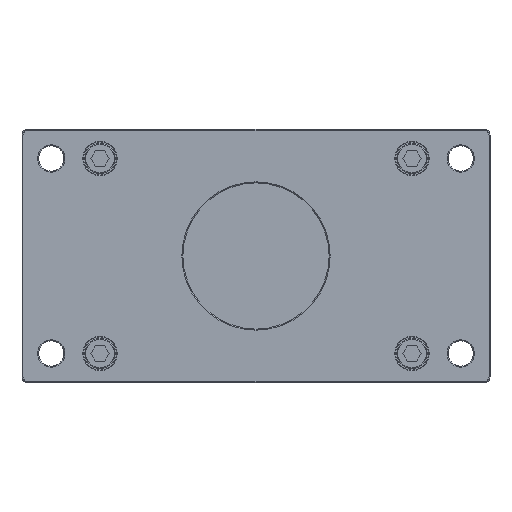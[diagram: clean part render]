
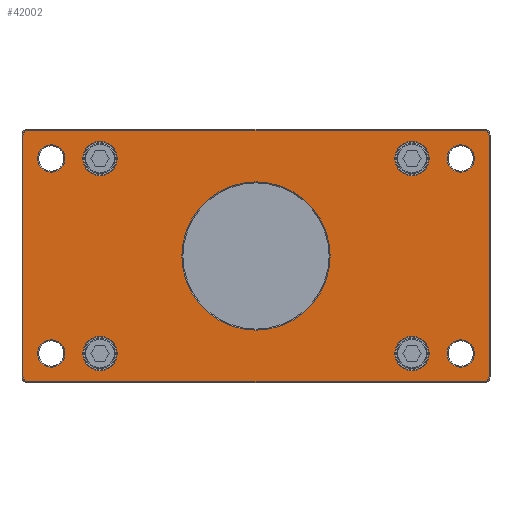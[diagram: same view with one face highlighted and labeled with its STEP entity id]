
A CAD part, front view. The second image highlights one B-rep face of the part: STEP entity #42002.
In plain terms, the highlighted planar face has unit normal (0, -1, 0) as drawn and (0, 1, 0) by its records, which use the part's own axes.
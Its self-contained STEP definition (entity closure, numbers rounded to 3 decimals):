
#40454=CARTESIAN_POINT('',(0.,9.,0.));
#40455=DIRECTION('',(0.,-1.,0.));
#40456=DIRECTION('',(1.,0.,0.));
#40457=AXIS2_PLACEMENT_3D('',#40454,#40455,#40456);
#40459=CARTESIAN_POINT('',(0.,9.,0.));
#40460=DIRECTION('',(0.,-1.,0.));
#40461=DIRECTION('',(-1.,0.,0.));
#40462=AXIS2_PLACEMENT_3D('',#40459,#40460,#40461);
#40464=CARTESIAN_POINT('',(-105.,9.,-50.));
#40465=DIRECTION('',(0.,-1.,0.));
#40466=DIRECTION('',(-1.,0.,0.));
#40467=AXIS2_PLACEMENT_3D('',#40464,#40465,#40466);
#40469=CARTESIAN_POINT('',(-105.,9.,-50.));
#40470=DIRECTION('',(0.,-1.,0.));
#40471=DIRECTION('',(1.,0.,0.));
#40472=AXIS2_PLACEMENT_3D('',#40469,#40470,#40471);
#40474=CARTESIAN_POINT('',(105.,9.,-50.));
#40475=DIRECTION('',(0.,-1.,0.));
#40476=DIRECTION('',(-1.,0.,0.));
#40477=AXIS2_PLACEMENT_3D('',#40474,#40475,#40476);
#40479=CARTESIAN_POINT('',(105.,9.,-50.));
#40480=DIRECTION('',(0.,-1.,0.));
#40481=DIRECTION('',(1.,0.,0.));
#40482=AXIS2_PLACEMENT_3D('',#40479,#40480,#40481);
#40484=CARTESIAN_POINT('',(105.,9.,50.));
#40485=DIRECTION('',(0.,-1.,0.));
#40486=DIRECTION('',(1.,0.,0.));
#40487=AXIS2_PLACEMENT_3D('',#40484,#40485,#40486);
#40489=CARTESIAN_POINT('',(105.,9.,50.));
#40490=DIRECTION('',(0.,-1.,0.));
#40491=DIRECTION('',(-1.,0.,0.));
#40492=AXIS2_PLACEMENT_3D('',#40489,#40490,#40491);
#40494=CARTESIAN_POINT('',(-105.,9.,50.));
#40495=DIRECTION('',(0.,-1.,0.));
#40496=DIRECTION('',(-1.,0.,0.));
#40497=AXIS2_PLACEMENT_3D('',#40494,#40495,#40496);
#40499=CARTESIAN_POINT('',(-105.,9.,50.));
#40500=DIRECTION('',(0.,-1.,0.));
#40501=DIRECTION('',(1.,0.,0.));
#40502=AXIS2_PLACEMENT_3D('',#40499,#40500,#40501);
#40504=CARTESIAN_POINT('',(-117.,9.,-62.));
#40505=DIRECTION('',(0.,1.,0.));
#40506=DIRECTION('',(0.,0.,-1.));
#40507=AXIS2_PLACEMENT_3D('',#40504,#40505,#40506);
#40509=DIRECTION('',(-1.,0.,0.));
#40510=VECTOR('',#40509,234.);
#40511=CARTESIAN_POINT('',(117.,9.,
-64.5));
#40512=LINE('',#40511,#40510);
#40513=CARTESIAN_POINT('',(117.,9.,-62.));
#40514=DIRECTION('',(0.,1.,0.));
#40515=DIRECTION('',(1.,0.,0.));
#40516=AXIS2_PLACEMENT_3D('',#40513,#40514,#40515);
#40518=DIRECTION('',(0.,0.,-1.));
#40519=VECTOR('',#40518,124.);
#40520=CARTESIAN_POINT('',(119.5,9.,62.));
#40521=LINE('',#40520,#40519);
#40522=CARTESIAN_POINT('',(117.,9.,62.));
#40523=DIRECTION('',(0.,1.,0.));
#40524=DIRECTION('',(0.,0.,1.));
#40525=AXIS2_PLACEMENT_3D('',#40522,#40523,#40524);
#40527=DIRECTION('',(1.,0.,0.));
#40528=VECTOR('',#40527,234.);
#40529=CARTESIAN_POINT('',(-117.,9.,
64.5));
#40530=LINE('',#40529,#40528);
#40531=CARTESIAN_POINT('',(-117.,9.,62.));
#40532=DIRECTION('',(0.,1.,0.));
#40533=DIRECTION('',(-1.,0.,0.));
#40534=AXIS2_PLACEMENT_3D('',#40531,#40532,#40533);
#40536=DIRECTION('',(0.,0.,1.));
#40537=VECTOR('',#40536,124.);
#40538=CARTESIAN_POINT('',(-119.5,9.,
-62.));
#40539=LINE('',#40538,#40537);
#40540=CARTESIAN_POINT('',(80.,9.,50.));
#40541=DIRECTION('',(0.,-1.,0.));
#40542=DIRECTION('',(1.,0.,0.));
#40543=AXIS2_PLACEMENT_3D('',#40540,#40541,#40542);
#40545=CARTESIAN_POINT('',(80.,9.,50.));
#40546=DIRECTION('',(0.,-1.,0.));
#40547=DIRECTION('',(-1.,0.,0.));
#40548=AXIS2_PLACEMENT_3D('',#40545,#40546,#40547);
#40550=CARTESIAN_POINT('',(-80.,9.,50.));
#40551=DIRECTION('',(0.,-1.,0.));
#40552=DIRECTION('',(1.,0.,0.));
#40553=AXIS2_PLACEMENT_3D('',#40550,#40551,#40552);
#40555=CARTESIAN_POINT('',(-80.,9.,50.));
#40556=DIRECTION('',(0.,-1.,0.));
#40557=DIRECTION('',(-1.,0.,0.));
#40558=AXIS2_PLACEMENT_3D('',#40555,#40556,#40557);
#40560=CARTESIAN_POINT('',(80.,9.,-50.));
#40561=DIRECTION('',(0.,-1.,0.));
#40562=DIRECTION('',(1.,0.,0.));
#40563=AXIS2_PLACEMENT_3D('',#40560,#40561,#40562);
#40565=CARTESIAN_POINT('',(80.,9.,-50.));
#40566=DIRECTION('',(0.,-1.,0.));
#40567=DIRECTION('',(-1.,0.,0.));
#40568=AXIS2_PLACEMENT_3D('',#40565,#40566,#40567);
#40570=CARTESIAN_POINT('',(-80.,9.,-50.));
#40571=DIRECTION('',(0.,-1.,0.));
#40572=DIRECTION('',(1.,0.,0.));
#40573=AXIS2_PLACEMENT_3D('',#40570,#40571,#40572);
#40575=CARTESIAN_POINT('',(-80.,9.,-50.));
#40576=DIRECTION('',(0.,-1.,0.));
#40577=DIRECTION('',(-1.,0.,0.));
#40578=AXIS2_PLACEMENT_3D('',#40575,#40576,#40577);
#41486=CARTESIAN_POINT('',(38.,9.,0.));
#41487=CARTESIAN_POINT('',(-38.,9.,0.));
#41488=VERTEX_POINT('',#41486);
#41489=VERTEX_POINT('',#41487);
#41502=CARTESIAN_POINT('',(-112.,9.,-50.));
#41503=CARTESIAN_POINT('',(-98.,9.,-50.));
#41504=VERTEX_POINT('',#41502);
#41505=VERTEX_POINT('',#41503);
#41510=CARTESIAN_POINT('',(98.,9.,-50.));
#41511=CARTESIAN_POINT('',(112.,9.,-50.));
#41512=VERTEX_POINT('',#41510);
#41513=VERTEX_POINT('',#41511);
#41518=CARTESIAN_POINT('',(112.,9.,50.));
#41519=CARTESIAN_POINT('',(98.,9.,50.));
#41520=VERTEX_POINT('',#41518);
#41521=VERTEX_POINT('',#41519);
#41526=CARTESIAN_POINT('',(-112.,9.,50.));
#41527=CARTESIAN_POINT('',(-98.,9.,50.));
#41528=VERTEX_POINT('',#41526);
#41529=VERTEX_POINT('',#41527);
#41598=CARTESIAN_POINT('',(-117.,9.,-64.5));
#41599=CARTESIAN_POINT('',(-119.5,9.,-62.));
#41600=VERTEX_POINT('',#41598);
#41601=VERTEX_POINT('',#41599);
#41606=CARTESIAN_POINT('',(-119.5,9.,
62.));
#41607=VERTEX_POINT('',#41606);
#41610=CARTESIAN_POINT('',(-117.,9.,64.5));
#41611=VERTEX_POINT('',#41610);
#41614=CARTESIAN_POINT('',(117.,9.,64.5));
#41615=VERTEX_POINT('',#41614);
#41618=CARTESIAN_POINT('',(119.5,9.,62.));
#41619=VERTEX_POINT('',#41618);
#41622=CARTESIAN_POINT('',(119.5,9.,
-62.));
#41623=VERTEX_POINT('',#41622);
#41626=CARTESIAN_POINT('',(117.,9.,-64.5));
#41627=VERTEX_POINT('',#41626);
#41646=CARTESIAN_POINT('',(88.8,9.,50.));
#41647=CARTESIAN_POINT('',(71.2,9.,50.));
#41648=VERTEX_POINT('',#41646);
#41649=VERTEX_POINT('',#41647);
#41670=CARTESIAN_POINT('',(-71.2,9.,50.));
#41671=CARTESIAN_POINT('',(-88.8,9.,50.));
#41672=VERTEX_POINT('',#41670);
#41673=VERTEX_POINT('',#41671);
#41686=CARTESIAN_POINT('',(88.8,9.,-50.));
#41687=CARTESIAN_POINT('',(71.2,9.,-50.));
#41688=VERTEX_POINT('',#41686);
#41689=VERTEX_POINT('',#41687);
#41694=CARTESIAN_POINT('',(-71.2,9.,-50.));
#41695=CARTESIAN_POINT('',(-88.8,9.,-50.));
#41696=VERTEX_POINT('',#41694);
#41697=VERTEX_POINT('',#41695);
#41926=CARTESIAN_POINT('',(0.,9.,0.));
#41927=DIRECTION('',(0.,1.,0.));
#41928=DIRECTION('',(1.,0.,0.));
#41929=AXIS2_PLACEMENT_3D('',#41926,#41927,#41928);
#41930=PLANE('',#41929);
#41932=ORIENTED_EDGE('',*,*,#41931,.F.);
#41934=ORIENTED_EDGE('',*,*,#41933,.F.);
#41936=ORIENTED_EDGE('',*,*,#41935,.F.);
#41938=ORIENTED_EDGE('',*,*,#41937,.F.);
#41940=ORIENTED_EDGE('',*,*,#41939,.F.);
#41942=ORIENTED_EDGE('',*,*,#41941,.F.);
#41944=ORIENTED_EDGE('',*,*,#41943,.F.);
#41946=ORIENTED_EDGE('',*,*,#41945,.F.);
#41947=EDGE_LOOP('',(#41932,#41934,#41936,#41938,#41940,#41942,#41944,#41946));
#41948=FACE_OUTER_BOUND('',#41947,.F.);
#41950=ORIENTED_EDGE('',*,*,#41949,.F.);
#41952=ORIENTED_EDGE('',*,*,#41951,.F.);
#41953=EDGE_LOOP('',(#41950,#41952));
#41954=FACE_BOUND('',#41953,.F.);
#41956=ORIENTED_EDGE('',*,*,#41955,.F.);
#41958=ORIENTED_EDGE('',*,*,#41957,.F.);
#41959=EDGE_LOOP('',(#41956,#41958));
#41960=FACE_BOUND('',#41959,.F.);
#41962=ORIENTED_EDGE('',*,*,#41961,.F.);
#41964=ORIENTED_EDGE('',*,*,#41963,.F.);
#41965=EDGE_LOOP('',(#41962,#41964));
#41966=FACE_BOUND('',#41965,.F.);
#41968=ORIENTED_EDGE('',*,*,#41967,.F.);
#41970=ORIENTED_EDGE('',*,*,#41969,.F.);
#41971=EDGE_LOOP('',(#41968,#41970));
#41972=FACE_BOUND('',#41971,.F.);
#41974=ORIENTED_EDGE('',*,*,#41973,.F.);
#41975=ORIENTED_EDGE('',*,*,#41916,.F.);
#41976=EDGE_LOOP('',(#41974,#41975));
#41977=FACE_BOUND('',#41976,.F.);
#41979=ORIENTED_EDGE('',*,*,#41978,.F.);
#41981=ORIENTED_EDGE('',*,*,#41980,.F.);
#41982=EDGE_LOOP('',(#41979,#41981));
#41983=FACE_BOUND('',#41982,.F.);
#41985=ORIENTED_EDGE('',*,*,#41984,.F.);
#41987=ORIENTED_EDGE('',*,*,#41986,.F.);
#41988=EDGE_LOOP('',(#41985,#41987));
#41989=FACE_BOUND('',#41988,.F.);
#41991=ORIENTED_EDGE('',*,*,#41990,.F.);
#41993=ORIENTED_EDGE('',*,*,#41992,.F.);
#41994=EDGE_LOOP('',(#41991,#41993));
#41995=FACE_BOUND('',#41994,.F.);
#41997=ORIENTED_EDGE('',*,*,#41996,.F.);
#41999=ORIENTED_EDGE('',*,*,#41998,.F.);
#42000=EDGE_LOOP('',(#41997,#41999));
#42001=FACE_BOUND('',#42000,.F.);
#42002=ADVANCED_FACE('',(#41948,#41954,#41960,#41966,#41972,#41977,#41983,
#41989,#41995,#42001),#41930,.T.);
#40458=CIRCLE('',#40457,38.);
#40463=CIRCLE('',#40462,38.);
#40468=CIRCLE('',#40467,7.);
#40473=CIRCLE('',#40472,7.);
#40478=CIRCLE('',#40477,7.);
#40483=CIRCLE('',#40482,7.);
#40488=CIRCLE('',#40487,7.);
#40493=CIRCLE('',#40492,7.);
#40498=CIRCLE('',#40497,7.);
#40503=CIRCLE('',#40502,7.);
#40508=CIRCLE('',#40507,2.5);
#40517=CIRCLE('',#40516,2.5);
#40526=CIRCLE('',#40525,2.5);
#40535=CIRCLE('',#40534,2.5);
#40544=CIRCLE('',#40543,8.8);
#40549=CIRCLE('',#40548,8.8);
#40554=CIRCLE('',#40553,8.8);
#40559=CIRCLE('',#40558,8.8);
#40564=CIRCLE('',#40563,8.8);
#40569=CIRCLE('',#40568,8.8);
#40574=CIRCLE('',#40573,8.8);
#40579=CIRCLE('',#40578,8.8);
#41916=EDGE_CURVE('',#41489,#41488,#40463,.T.);
#41931=EDGE_CURVE('',#41600,#41601,#40508,.T.);
#41933=EDGE_CURVE('',#41627,#41600,#40512,.T.);
#41935=EDGE_CURVE('',#41623,#41627,#40517,.T.);
#41937=EDGE_CURVE('',#41619,#41623,#40521,.T.);
#41939=EDGE_CURVE('',#41615,#41619,#40526,.T.);
#41941=EDGE_CURVE('',#41611,#41615,#40530,.T.);
#41943=EDGE_CURVE('',#41607,#41611,#40535,.T.);
#41945=EDGE_CURVE('',#41601,#41607,#40539,.T.);
#41949=EDGE_CURVE('',#41504,#41505,#40468,.T.);
#41951=EDGE_CURVE('',#41505,#41504,#40473,.T.);
#41955=EDGE_CURVE('',#41512,#41513,#40478,.T.);
#41957=EDGE_CURVE('',#41513,#41512,#40483,.T.);
#41961=EDGE_CURVE('',#41520,#41521,#40488,.T.);
#41963=EDGE_CURVE('',#41521,#41520,#40493,.T.);
#41967=EDGE_CURVE('',#41528,#41529,#40498,.T.);
#41969=EDGE_CURVE('',#41529,#41528,#40503,.T.);
#41973=EDGE_CURVE('',#41488,#41489,#40458,.T.);
#41978=EDGE_CURVE('',#41648,#41649,#40544,.T.);
#41980=EDGE_CURVE('',#41649,#41648,#40549,.T.);
#41984=EDGE_CURVE('',#41672,#41673,#40554,.T.);
#41986=EDGE_CURVE('',#41673,#41672,#40559,.T.);
#41990=EDGE_CURVE('',#41688,#41689,#40564,.T.);
#41992=EDGE_CURVE('',#41689,#41688,#40569,.T.);
#41996=EDGE_CURVE('',#41696,#41697,#40574,.T.);
#41998=EDGE_CURVE('',#41697,#41696,#40579,.T.);
